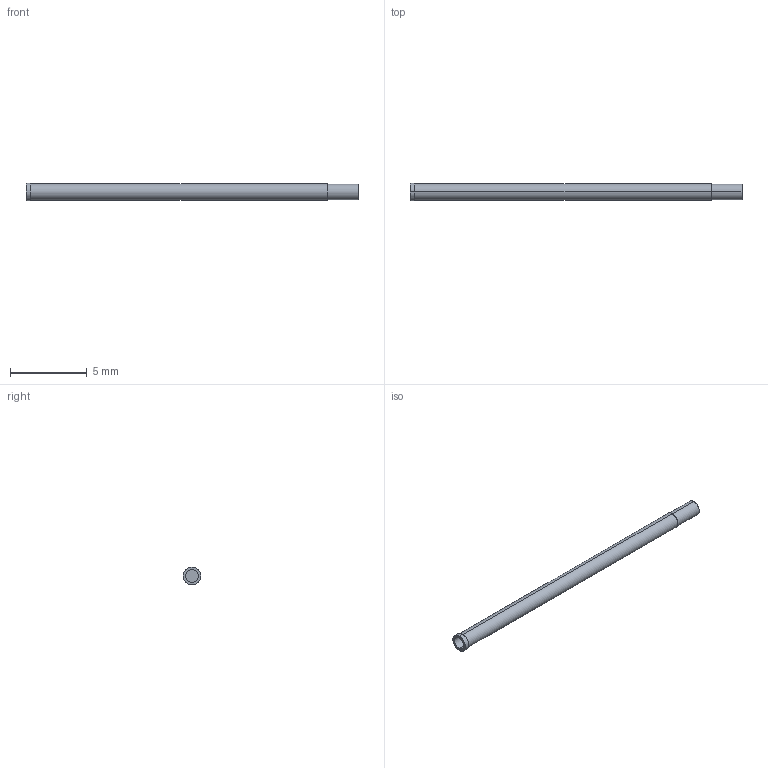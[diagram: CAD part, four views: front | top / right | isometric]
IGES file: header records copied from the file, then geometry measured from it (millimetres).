
Start section: SolidWorks IGES file using analytic representation for surfaces
Global section: file name: C:\Users\otazawa\Desktop\プローブカタログデータ確認分2014.07\80Series\IS080-E.IGS,15HSolidWorks; native system: 2011; preprocessor: SolidWorks 2011; author: otazawa; date: 140820.165844; units: millimetre
Bounding box: 21.7 x 1.15 x 1.15 mm (x, y, z)
Surface area: 123 mm2 (no closed solid volume)
Topology: 0 solids, 0 shells, 16 faces, 200 edges, 200 vertices
Faces by surface type: revolution 10, bspline 6
